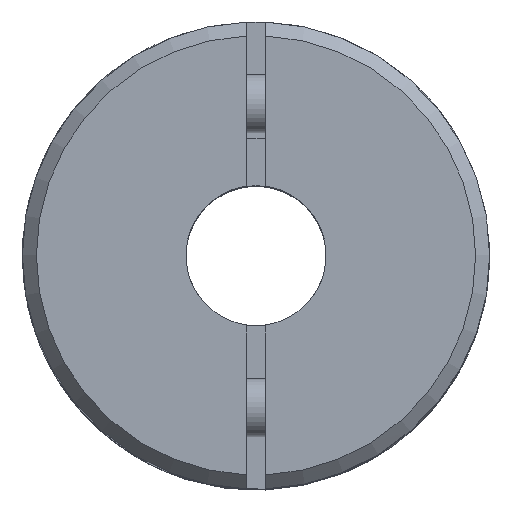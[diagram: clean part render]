
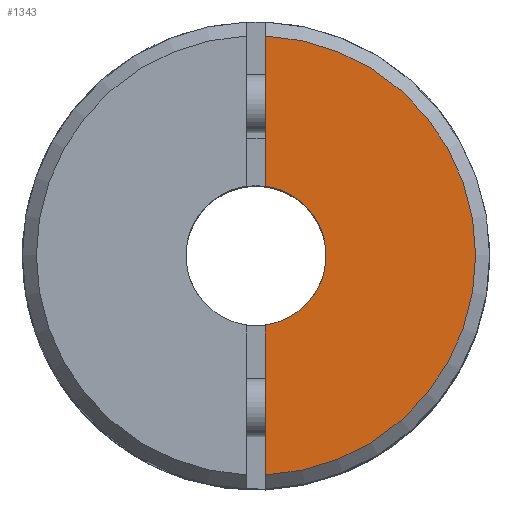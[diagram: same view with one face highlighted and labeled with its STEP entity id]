
A CAD part, top view. The second image highlights one B-rep face of the part: STEP entity #1343.
In plain terms, the highlighted planar face has unit normal (0, 0, 1).
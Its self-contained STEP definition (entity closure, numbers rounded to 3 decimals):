
#71 = DIRECTION ( 'NONE',  ( 0., -1., 0. ) ) ;
#166 = CARTESIAN_POINT ( 'NONE',  ( 0., 0., 13. ) ) ;
#322 = CARTESIAN_POINT ( 'NONE',  ( 0.4, -9.391, 13. ) ) ;
#329 = EDGE_CURVE ( 'NONE', #1180, #611, #2105, .T. ) ;
#398 = EDGE_CURVE ( 'NONE', #3616, #1180, #3992, .T. ) ;
#411 = CARTESIAN_POINT ( 'NONE',  ( 0.4, -2.973, 13. ) ) ;
#611 = VERTEX_POINT ( 'NONE', #895 ) ;
#718 = AXIS2_PLACEMENT_3D ( 'NONE', #1237, #4241, #2597 ) ;
#839 = AXIS2_PLACEMENT_3D ( 'NONE', #2930, #878, #4242 ) ;
#878 = DIRECTION ( 'NONE',  ( 0., 0., -1. ) ) ;
#895 = CARTESIAN_POINT ( 'NONE',  ( 0.4, 2.973, 13. ) ) ;
#1029 = CARTESIAN_POINT ( 'NONE',  ( 0.4, 15., 13. ) ) ;
#1049 = VECTOR ( 'NONE', #71, 1000. ) ;
#1180 = VERTEX_POINT ( 'NONE', #1901 ) ;
#1237 = CARTESIAN_POINT ( 'NONE',  ( 0., 0., 13. ) ) ;
#1343 = ADVANCED_FACE ( 'NONE', ( #3978 ), #2886, .F. ) ;
#1532 = DIRECTION ( 'NONE',  ( 0., 0., 1. ) ) ;
#1631 = LINE ( 'NONE', #1029, #2430 ) ;
#1901 = CARTESIAN_POINT ( 'NONE',  ( 0.4, 9.391, 13. ) ) ;
#1973 = ORIENTED_EDGE ( 'NONE', *, *, #329, .T. ) ;
#2105 = LINE ( 'NONE', #3130, #1049 ) ;
#2172 = CIRCLE ( 'NONE', #718, 3. ) ;
#2193 = EDGE_LOOP ( 'NONE', ( #3684, #3607, #1973, #2322 ) ) ;
#2273 = AXIS2_PLACEMENT_3D ( 'NONE', #166, #1532, #4365 ) ;
#2322 = ORIENTED_EDGE ( 'NONE', *, *, #4168, .F. ) ;
#2402 = EDGE_CURVE ( 'NONE', #3436, #3616, #1631, .T. ) ;
#2430 = VECTOR ( 'NONE', #3013, 1000. ) ;
#2597 = DIRECTION ( 'NONE',  ( 0., -1., 0. ) ) ;
#2886 = PLANE ( 'NONE',  #839 ) ;
#2930 = CARTESIAN_POINT ( 'NONE',  ( 0., 3., 13. ) ) ;
#3013 = DIRECTION ( 'NONE',  ( 0., -1., 0. ) ) ;
#3130 = CARTESIAN_POINT ( 'NONE',  ( 0.4, 15., 13. ) ) ;
#3436 = VERTEX_POINT ( 'NONE', #411 ) ;
#3607 = ORIENTED_EDGE ( 'NONE', *, *, #398, .T. ) ;
#3616 = VERTEX_POINT ( 'NONE', #322 ) ;
#3684 = ORIENTED_EDGE ( 'NONE', *, *, #2402, .T. ) ;
#3978 = FACE_OUTER_BOUND ( 'NONE', #2193, .T. ) ;
#3992 = CIRCLE ( 'NONE', #2273, 9.4 ) ;
#4168 = EDGE_CURVE ( 'NONE', #3436, #611, #2172, .T. ) ;
#4241 = DIRECTION ( 'NONE',  ( 0., 0., 1. ) ) ;
#4242 = DIRECTION ( 'NONE',  ( 0., 1., 0. ) ) ;
#4365 = DIRECTION ( 'NONE',  ( 0., 1., 0. ) ) ;
